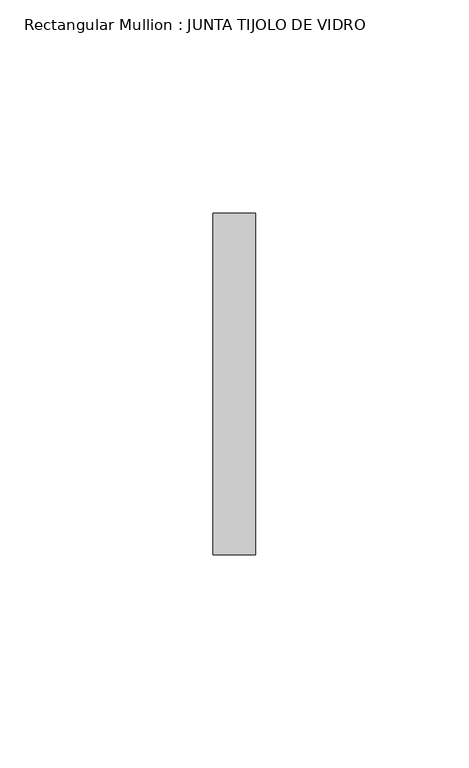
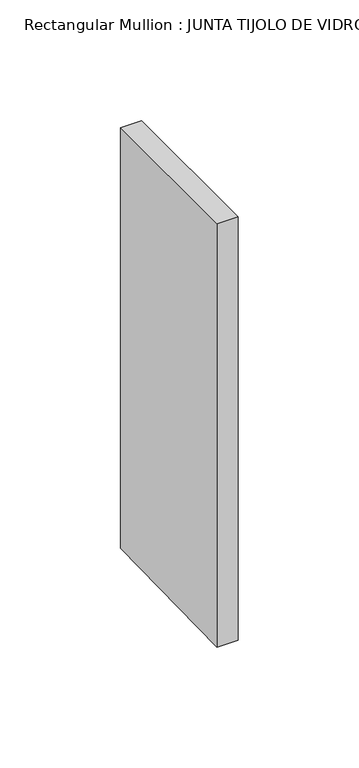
"""IFC4 building model written with IfcOpenShell, lengths in millimetres: member geometry, Rectangular Mullion : JUNTA TIJOLO DE VIDRO."""

from ifc_helpers import new_model, si_unit, frame, origin, place, context, project, spatial, polyline, outline, extrude, source, transform, mapped, element, save


def rectangular_mullion_junta_tijolo_de_vidro_778310da(model_context):
    return source(origin(), model_context, "Body", "SweptSolid", [
        extrude(outline(polyline([(-40.0, 0.0), (40.0, 0.0), (40.0, -212.4243631), (-40.0, -213.9392733), (-40.0, 0.0)])), frame((-10.0, 0.0, 0.0), z_axis=(1.0, 0.0, 0.0), x_axis=(0.0, 1.0, 0.0)), (0.0, 0.0, 1.0), 10.0),
    ])


if __name__ == "__main__":
    model = new_model("IFC4")
    model_context = context("Model", 3, world=origin())
    ifc_project = project(units=[si_unit("LENGTHUNIT", "METRE", prefix="MILLI")], contexts=[model_context])
    site = spatial("IfcSite", under=ifc_project)
    building = spatial("IfcBuilding", under=site)
    placement = place(None, origin())
    rectangular_mullion_junta_tijolo_de_vidro_shape = rectangular_mullion_junta_tijolo_de_vidro_778310da(model_context)
    element("IfcMember", 1, ObjectType="Rectangular Mullion : JUNTA TIJOLO DE VIDRO", at=placement, inside=building, context=model_context, shape_type="MappedRepresentation", body=[
        mapped(rectangular_mullion_junta_tijolo_de_vidro_shape, transform((0.0, 0.0, 0.0), x_axis=(1.0, 0.0, 0.0), y_axis=(0.0, 1.0, 0.0), z_axis=(0.0, 0.0, 1.0))),
    ])
    save(model, "model.ifc")
